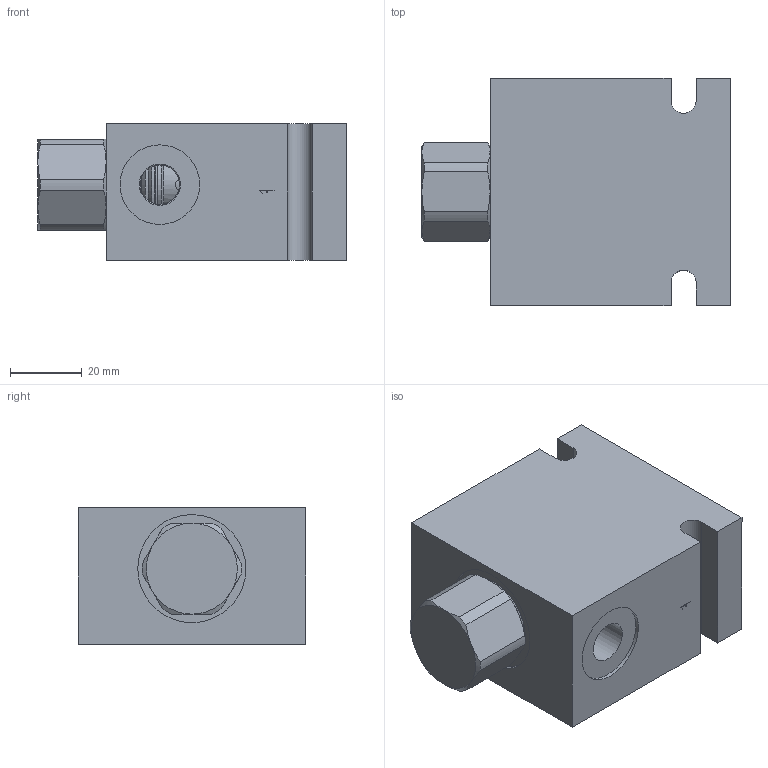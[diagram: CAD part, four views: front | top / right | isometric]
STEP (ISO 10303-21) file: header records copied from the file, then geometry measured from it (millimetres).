
FILE_DESCRIPTION(/* description */ ('Unknown'),/* implementation_level */ '2;1');
FILE_NAME(/* name */ 'HFPDE00-A3',/* time_stamp */ '2019-03-12T10:41:10+00:00',/* author */ ('Unknown'),/* organization */ ('Unknown'),/* preprocessor_version */ 'ST-DEVELOPER v16.7',/* originating_system */ 'DEX',/* authorisation */ $);
FILE_SCHEMA (('AUTOMOTIVE_DESIGN {1 0 10303 214 3 1 1}'));
Length unit declared in the file: millimetre
Products named in the file (3): HFPDE00; B-DDFA3
Assembly tree (2 placements, depth 2):
  HFPDE00
    HFPDE00
    B-DDFA3
Bounding box: 86.05 x 63.5 x 38.1 mm (x, y, z)
Volume: 157199 mm3; surface area: 32125.7 mm2
Topology: 7 solids, 7 shells, 234 faces, 560 edges, 360 vertices
Faces by surface type: plane 111, cylinder 77, cone 39, torus 7
Full cylindrical faces by diameter (mm): 0.2 x3, 3.175 x16, 6.3 x1, 9.53 x1, 11 x1, 11.5 x6, 12.992 x1, 13.043 x1, 14 x1, 14.275 x1, 14.592 x1, 14.643 x1, 15.088 x1, 15.735 x1, 15.748 x2, 15.875 x1, 15.926 x1, 17.323 x2, 17.335 x1, 17.424 x1, 17.526 x1, 17.527 x1, 19.621 x1, 20.262 x2, 22.22 x3, 30.175 x1
Entity records: 7194 total; most frequent: CARTESIAN_POINT 1644, ORIENTED_EDGE 874, DIRECTION 835, EDGE_CURVE 437, AXIS2_PLACEMENT_3D 362, FACE_BOUND 355, EDGE_LOOP 352, VERTEX_POINT 328
